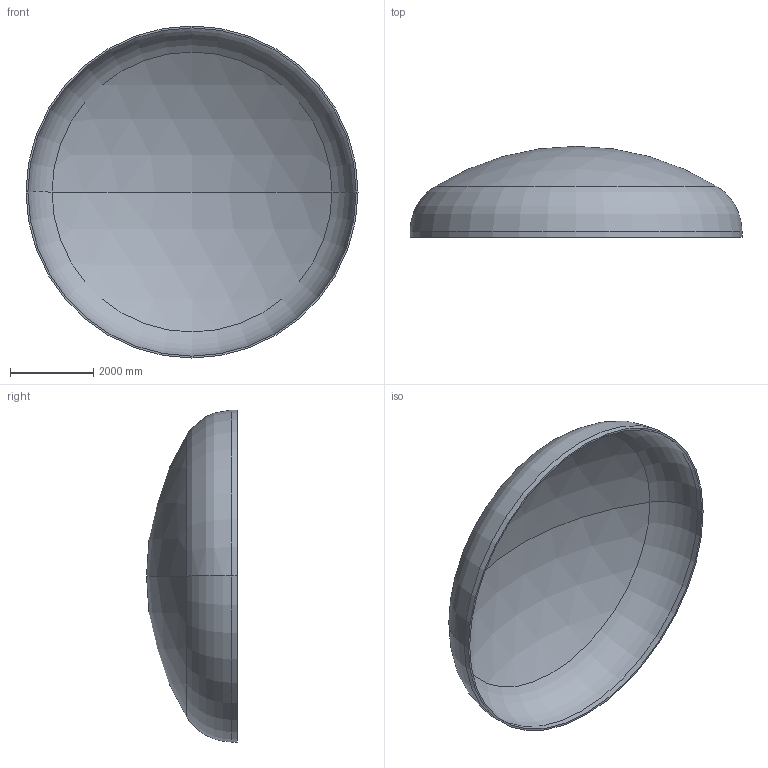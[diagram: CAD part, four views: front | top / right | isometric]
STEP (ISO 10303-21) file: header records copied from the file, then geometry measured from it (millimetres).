
FILE_DESCRIPTION (( 'STEP AP203' ), '1' );
FILE_NAME ('DIN 28013 Korbbogenform_-_Boden DIN 28013 - 8000 x 140 - I - s=45.step', '2016-07-04T11:01:50', ( '' ), ( '' ), 'SwSTEP 2.0', 'SolidWorks 2013', '' );
FILE_SCHEMA (( 'CONFIG_CONTROL_DESIGN' ));
Length unit declared in the file: millimetre
Products named in the file (1): DIN 28013 Korbbogenform_-_Boden DIN 28013 - 8000 x 140 - I - s=45
Bounding box: 8000 x 2191.45 x 8000 mm (x, y, z)
Volume: 3266098002.4 mm3; surface area: 146288707 mm2
Topology: 1 solids, 1 shells, 13 faces, 24 edges, 14 vertices
Faces by surface type: torus 4, cylinder 4, sphere 4, plane 1
Entity records: 407 total; most frequent: DIRECTION 72, CARTESIAN_POINT 52, ORIENTED_EDGE 48, AXIS2_PLACEMENT_3D 34, EDGE_CURVE 24, CIRCLE 20, EDGE_LOOP 14, VERTEX_POINT 14
